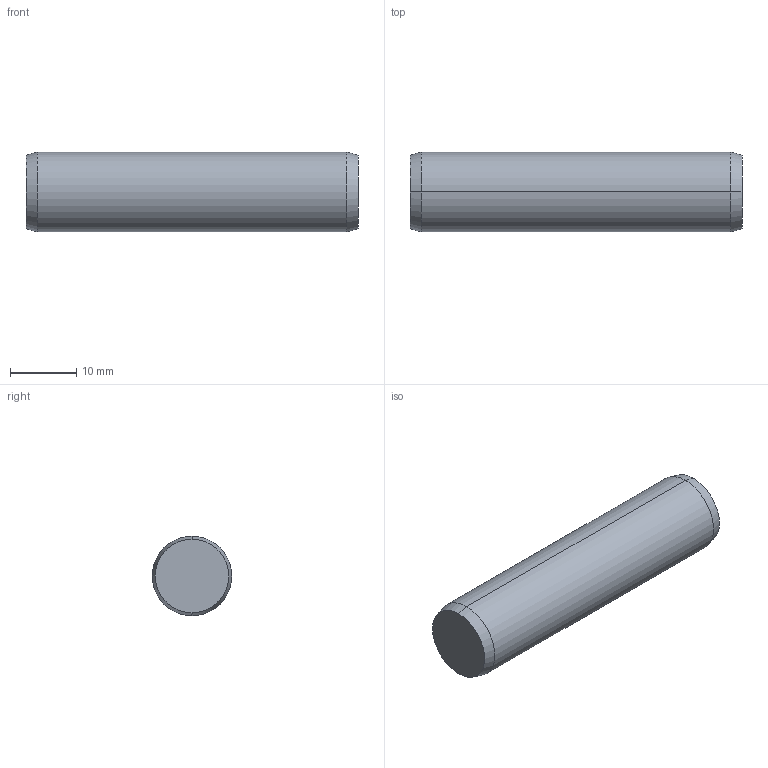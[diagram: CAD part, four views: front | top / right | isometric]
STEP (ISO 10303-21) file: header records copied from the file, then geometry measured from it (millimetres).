
FILE_DESCRIPTION (( 'STEP AP203' ), '1' );
FILE_NAME ('P1206.120-050.step', '2017-06-14T08:39:13', ( 'User' ), ( '' ), 'SwSTEP 2.0', 'SolidWorks 2009', '' );
FILE_SCHEMA (( 'CONFIG_CONTROL_DESIGN' ));
Length unit declared in the file: millimetre
Products named in the file (1): P1206.120-050
Bounding box: 50 x 12 x 12 mm (x, y, z)
Volume: 5626.4 mm3; surface area: 2077.6 mm2
Topology: 1 solids, 1 shells, 8 faces, 14 edges, 8 vertices
Faces by surface type: cone 4, cylinder 2, plane 2
Entity records: 271 total; most frequent: DIRECTION 40, CARTESIAN_POINT 31, ORIENTED_EDGE 28, AXIS2_PLACEMENT_3D 17, EDGE_CURVE 14, VERTEX_POINT 8, ADVANCED_FACE 8, EDGE_LOOP 8
